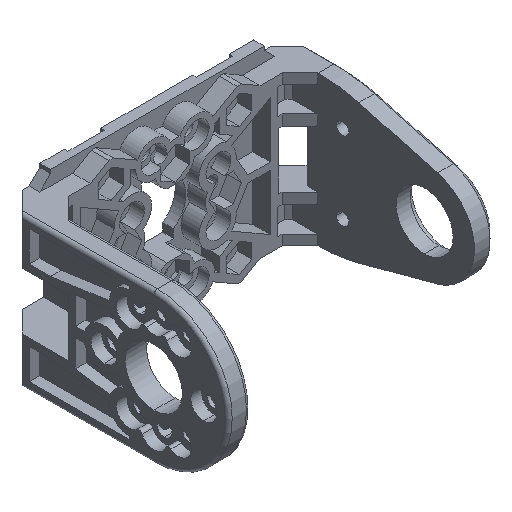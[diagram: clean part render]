
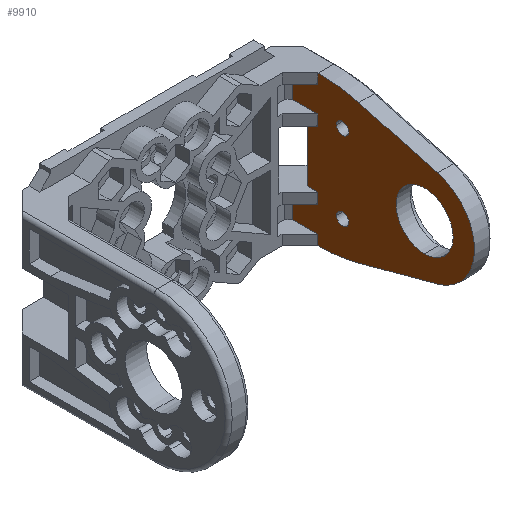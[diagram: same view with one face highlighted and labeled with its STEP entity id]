
A CAD part, isometric view. The second image highlights one B-rep face of the part: STEP entity #9910.
In plain terms, the highlighted planar face has unit normal (-1, 0, 0).
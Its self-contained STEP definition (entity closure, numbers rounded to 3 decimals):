
#10=DIRECTION('',(0.,-1.,0.));
#11=VECTOR('',#10,0.065);
#12=CARTESIAN_POINT('',(17.5,25.5,-10.5));
#13=LINE('',#12,#11);
#2473=DIRECTION('',(0.,1.,0.));
#2474=VECTOR('',#2473,3.536);
#2475=CARTESIAN_POINT('',(17.5,25.5,5.5));
#2476=LINE('',#2475,#2474);
#2489=CARTESIAN_POINT('',(17.5,10.5,0.));
#2490=DIRECTION('',(1.,0.,0.));
#2491=DIRECTION('',(0.,0.,-1.));
#2492=AXIS2_PLACEMENT_3D('',#2489,#2490,#2491);
#2494=CARTESIAN_POINT('',(17.5,10.5,0.));
#2495=DIRECTION('',(1.,0.,0.));
#2496=DIRECTION('',(0.,0.,1.));
#2497=AXIS2_PLACEMENT_3D('',#2494,#2495,#2496);
#2499=CARTESIAN_POINT('',(17.5,22.,5.5));
#2500=DIRECTION('',(1.,0.,0.));
#2501=DIRECTION('',(0.,1.,0.));
#2502=AXIS2_PLACEMENT_3D('',#2499,#2500,#2501);
#2504=CARTESIAN_POINT('',(17.5,22.,5.5));
#2505=DIRECTION('',(1.,0.,0.));
#2506=DIRECTION('',(0.,-1.,0.));
#2507=AXIS2_PLACEMENT_3D('',#2504,#2505,#2506);
#2509=CARTESIAN_POINT('',(17.5,22.,-5.5));
#2510=DIRECTION('',(-1.,0.,0.));
#2511=DIRECTION('',(0.,1.,0.));
#2512=AXIS2_PLACEMENT_3D('',#2509,#2510,#2511);
#2514=CARTESIAN_POINT('',(17.5,22.,-5.5));
#2515=DIRECTION('',(-1.,0.,0.));
#2516=DIRECTION('',(0.,-1.,0.));
#2517=AXIS2_PLACEMENT_3D('',#2514,#2515,#2516);
#2519=DIRECTION('',(0.,0.,1.));
#2520=VECTOR('',#2519,1.4);
#2521=CARTESIAN_POINT('',(17.5,25.5,-10.5));
#2522=LINE('',#2521,#2520);
#2523=DIRECTION('',(0.,0.,1.));
#2524=VECTOR('',#2523,1.5);
#2525=CARTESIAN_POINT('',(17.5,25.5,-5.5));
#2526=LINE('',#2525,#2524);
#2527=DIRECTION('',(0.,1.,0.));
#2528=VECTOR('',#2527,1.5);
#2529=CARTESIAN_POINT('',(17.5,25.5,-4.));
#2530=LINE('',#2529,#2528);
#2531=DIRECTION('',(0.,0.,-1.));
#2532=VECTOR('',#2531,8.);
#2533=CARTESIAN_POINT('',(17.5,27.,4.));
#2534=LINE('',#2533,#2532);
#2535=DIRECTION('',(0.,1.,0.));
#2536=VECTOR('',#2535,1.5);
#2537=CARTESIAN_POINT('',(17.5,25.5,4.));
#2538=LINE('',#2537,#2536);
#2539=DIRECTION('',(0.,0.,1.));
#2540=VECTOR('',#2539,1.5);
#2541=CARTESIAN_POINT('',(17.5,25.5,4.));
#2542=LINE('',#2541,#2540);
#2543=DIRECTION('',(0.,0.,1.));
#2544=VECTOR('',#2543,1.4);
#2545=CARTESIAN_POINT('',(17.5,25.5,9.1));
#2546=LINE('',#2545,#2544);
#2547=CARTESIAN_POINT('',(17.5,25.435,-11.3));
#2548=DIRECTION('',(-1.,0.,0.));
#2549=DIRECTION('',(0.,-0.26,0.965));
#2550=AXIS2_PLACEMENT_3D('',#2547,#2548,#2549);
#2552=DIRECTION('',(0.,0.965,0.26));
#2553=VECTOR('',#2552,11.477);
#2554=CARTESIAN_POINT('',(17.5,8.677,6.758));
#2555=LINE('',#2554,#2553);
#2556=DIRECTION('',(0.,0.965,-0.26));
#2557=VECTOR('',#2556,11.477);
#2558=CARTESIAN_POINT('',(17.5,8.677,-6.758));
#2559=LINE('',#2558,#2557);
#2560=CARTESIAN_POINT('',(17.5,25.435,11.3));
#2561=DIRECTION('',(-1.,0.,0.));
#2562=DIRECTION('',(0.,0.,-1.));
#2563=AXIS2_PLACEMENT_3D('',#2560,#2561,#2562);
#3611=DIRECTION('',(0.,-1.,0.));
#3612=VECTOR('',#3611,0.065);
#3613=CARTESIAN_POINT('',(17.5,25.5,10.5));
#3614=LINE('',#3613,#3612);
#4260=CARTESIAN_POINT('',(17.5,10.5,0.));
#4261=DIRECTION('',(-1.,0.,0.));
#4262=DIRECTION('',(0.,-0.26,-0.965));
#4263=AXIS2_PLACEMENT_3D('',#4260,#4261,#4262);
#4354=DIRECTION('',(0.,1.,0.));
#4355=VECTOR('',#4354,3.536);
#4356=CARTESIAN_POINT('',(17.5,25.5,-5.5));
#4357=LINE('',#4356,#4355);
#4370=DIRECTION('',(0.,0.,-1.));
#4371=VECTOR('',#4370,3.6);
#4372=CARTESIAN_POINT('',(17.5,29.036,-5.5));
#4373=LINE('',#4372,#4371);
#4374=DIRECTION('',(0.,1.,0.));
#4375=VECTOR('',#4374,3.536);
#4376=CARTESIAN_POINT('',(17.5,25.5,-9.1));
#4377=LINE('',#4376,#4375);
#4603=DIRECTION('',(0.,0.,1.));
#4604=VECTOR('',#4603,3.6);
#4605=CARTESIAN_POINT('',(17.5,29.036,5.5));
#4606=LINE('',#4605,#4604);
#4615=DIRECTION('',(0.,1.,0.));
#4616=VECTOR('',#4615,3.536);
#4617=CARTESIAN_POINT('',(17.5,25.5,9.1));
#4618=LINE('',#4617,#4616);
#5465=CARTESIAN_POINT('',(17.5,10.5,-4.));
#5466=CARTESIAN_POINT('',(17.5,10.5,4.));
#5467=VERTEX_POINT('',#5465);
#5468=VERTEX_POINT('',#5466);
#5473=CARTESIAN_POINT('',(17.5,27.,4.));
#5474=CARTESIAN_POINT('',(17.5,27.,-4.));
#5475=VERTEX_POINT('',#5473);
#5476=VERTEX_POINT('',#5474);
#5717=CARTESIAN_POINT('',(17.5,25.5,4.));
#5718=VERTEX_POINT('',#5717);
#5719=CARTESIAN_POINT('',(17.5,25.5,-4.));
#5720=VERTEX_POINT('',#5719);
#5737=CARTESIAN_POINT('',(17.5,22.85,5.5));
#5738=CARTESIAN_POINT('',(17.5,21.15,5.5));
#5739=VERTEX_POINT('',#5737);
#5740=VERTEX_POINT('',#5738);
#5746=CARTESIAN_POINT('',(17.5,22.85,-5.5));
#5748=VERTEX_POINT('',#5746);
#5750=CARTESIAN_POINT('',(17.5,21.15,-5.5));
#5752=VERTEX_POINT('',#5750);
#5889=CARTESIAN_POINT('',(17.5,8.677,-6.758));
#5890=CARTESIAN_POINT('',(17.5,8.677,6.758));
#5891=VERTEX_POINT('',#5889);
#5892=VERTEX_POINT('',#5890);
#5893=CARTESIAN_POINT('',(17.5,19.757,9.748));
#5894=CARTESIAN_POINT('',(17.5,25.435,10.5));
#5895=VERTEX_POINT('',#5893);
#5896=VERTEX_POINT('',#5894);
#5897=CARTESIAN_POINT('',(17.5,25.435,-10.5));
#5898=CARTESIAN_POINT('',(17.5,19.757,-9.748));
#5899=VERTEX_POINT('',#5897);
#5900=VERTEX_POINT('',#5898);
#5901=CARTESIAN_POINT('',(17.5,25.5,10.5));
#5902=VERTEX_POINT('',#5901);
#5903=CARTESIAN_POINT('',(17.5,25.5,-10.5));
#5904=VERTEX_POINT('',#5903);
#6033=CARTESIAN_POINT('',(17.5,29.036,5.5));
#6035=VERTEX_POINT('',#6033);
#6039=CARTESIAN_POINT('',(17.5,29.036,9.1));
#6041=VERTEX_POINT('',#6039);
#6045=CARTESIAN_POINT('',(17.5,25.5,5.5));
#6046=VERTEX_POINT('',#6045);
#6049=CARTESIAN_POINT('',(17.5,25.5,9.1));
#6050=VERTEX_POINT('',#6049);
#6053=CARTESIAN_POINT('',(17.5,29.036,-5.5));
#6055=VERTEX_POINT('',#6053);
#6059=CARTESIAN_POINT('',(17.5,29.036,-9.1));
#6061=VERTEX_POINT('',#6059);
#6065=CARTESIAN_POINT('',(17.5,25.5,-5.5));
#6066=VERTEX_POINT('',#6065);
#6069=CARTESIAN_POINT('',(17.5,25.5,-9.1));
#6070=VERTEX_POINT('',#6069);
#9850=CARTESIAN_POINT('',(17.5,28.,-10.5));
#9851=DIRECTION('',(-1.,0.,0.));
#9852=DIRECTION('',(0.,-1.,0.));
#9853=AXIS2_PLACEMENT_3D('',#9850,#9851,#9852);
#9854=PLANE('',#9853);
#9856=ORIENTED_EDGE('',*,*,#9855,.T.);
#9858=ORIENTED_EDGE('',*,*,#9857,.T.);
#9860=ORIENTED_EDGE('',*,*,#9859,.F.);
#9862=ORIENTED_EDGE('',*,*,#9861,.F.);
#9864=ORIENTED_EDGE('',*,*,#9863,.T.);
#9866=ORIENTED_EDGE('',*,*,#9865,.T.);
#9868=ORIENTED_EDGE('',*,*,#9867,.F.);
#9869=ORIENTED_EDGE('',*,*,#9791,.F.);
#9870=ORIENTED_EDGE('',*,*,#9810,.T.);
#9871=ORIENTED_EDGE('',*,*,#9837,.T.);
#9873=ORIENTED_EDGE('',*,*,#9872,.T.);
#9875=ORIENTED_EDGE('',*,*,#9874,.F.);
#9876=ORIENTED_EDGE('',*,*,#9825,.T.);
#9878=ORIENTED_EDGE('',*,*,#9877,.T.);
#9880=ORIENTED_EDGE('',*,*,#9879,.F.);
#9882=ORIENTED_EDGE('',*,*,#9881,.F.);
#9884=ORIENTED_EDGE('',*,*,#9883,.F.);
#9886=ORIENTED_EDGE('',*,*,#9885,.T.);
#9888=ORIENTED_EDGE('',*,*,#9887,.F.);
#9889=ORIENTED_EDGE('',*,*,#7072,.F.);
#9890=EDGE_LOOP('',(#9856,#9858,#9860,#9862,#9864,#9866,#9868,#9869,#9870,#9871,
#9873,#9875,#9876,#9878,#9880,#9882,#9884,#9886,#9888,#9889));
#9891=FACE_OUTER_BOUND('',#9890,.F.);
#9893=ORIENTED_EDGE('',*,*,#9892,.F.);
#9895=ORIENTED_EDGE('',*,*,#9894,.F.);
#9896=EDGE_LOOP('',(#9893,#9895));
#9897=FACE_BOUND('',#9896,.F.);
#9899=ORIENTED_EDGE('',*,*,#9898,.F.);
#9901=ORIENTED_EDGE('',*,*,#9900,.F.);
#9902=EDGE_LOOP('',(#9899,#9901));
#9903=FACE_BOUND('',#9902,.F.);
#9905=ORIENTED_EDGE('',*,*,#9904,.T.);
#9907=ORIENTED_EDGE('',*,*,#9906,.T.);
#9908=EDGE_LOOP('',(#9905,#9907));
#9909=FACE_BOUND('',#9908,.F.);
#9910=ADVANCED_FACE('',(#9891,#9897,#9903,#9909),#9854,.T.);
#2493=CIRCLE('',#2492,4.);
#2498=CIRCLE('',#2497,4.);
#2503=CIRCLE('',#2502,0.85);
#2508=CIRCLE('',#2507,0.85);
#2513=CIRCLE('',#2512,0.85);
#2518=CIRCLE('',#2517,0.85);
#2551=CIRCLE('',#2550,21.8);
#2564=CIRCLE('',#2563,21.8);
#4264=CIRCLE('',#4263,7.);
#7072=EDGE_CURVE('',#5904,#5899,#13,.T.);
#9791=EDGE_CURVE('',#5718,#5475,#2538,.T.);
#9810=EDGE_CURVE('',#5718,#6046,#2542,.T.);
#9825=EDGE_CURVE('',#6050,#5902,#2546,.T.);
#9837=EDGE_CURVE('',#6046,#6035,#2476,.T.);
#9855=EDGE_CURVE('',#5904,#6070,#2522,.T.);
#9857=EDGE_CURVE('',#6070,#6061,#4377,.T.);
#9859=EDGE_CURVE('',#6055,#6061,#4373,.T.);
#9861=EDGE_CURVE('',#6066,#6055,#4357,.T.);
#9863=EDGE_CURVE('',#6066,#5720,#2526,.T.);
#9865=EDGE_CURVE('',#5720,#5476,#2530,.T.);
#9867=EDGE_CURVE('',#5475,#5476,#2534,.T.);
#9872=EDGE_CURVE('',#6035,#6041,#4606,.T.);
#9874=EDGE_CURVE('',#6050,#6041,#4618,.T.);
#9877=EDGE_CURVE('',#5902,#5896,#3614,.T.);
#9879=EDGE_CURVE('',#5895,#5896,#2551,.T.);
#9881=EDGE_CURVE('',#5892,#5895,#2555,.T.);
#9883=EDGE_CURVE('',#5891,#5892,#4264,.T.);
#9885=EDGE_CURVE('',#5891,#5900,#2559,.T.);
#9887=EDGE_CURVE('',#5899,#5900,#2564,.T.);
#9892=EDGE_CURVE('',#5467,#5468,#2493,.T.);
#9894=EDGE_CURVE('',#5468,#5467,#2498,.T.);
#9898=EDGE_CURVE('',#5739,#5740,#2503,.T.);
#9900=EDGE_CURVE('',#5740,#5739,#2508,.T.);
#9904=EDGE_CURVE('',#5748,#5752,#2513,.T.);
#9906=EDGE_CURVE('',#5752,#5748,#2518,.T.);
